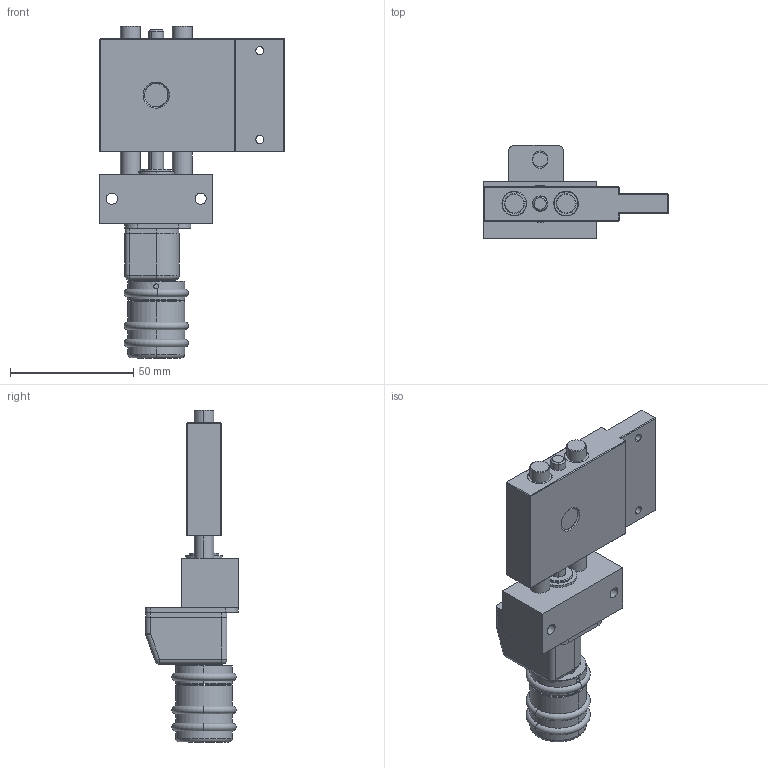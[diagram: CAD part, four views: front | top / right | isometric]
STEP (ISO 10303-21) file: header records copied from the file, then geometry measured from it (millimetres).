
FILE_DESCRIPTION (( 'STEP AP203' ), '1' );
FILE_NAME ('KT1408-KL-PA-Kreuztisch.STEP', '2016-01-15T16:46:00', ( '' ), ( '' ), 'SwSTEP 2.0', 'SolidWorks 2014', '' );
FILE_SCHEMA (( 'CONFIG_CONTROL_DESIGN' ));
Length unit declared in the file: millimetre
Products named in the file (4): PA0812-PTHT-000-Positionsanzeiger-komplett_n_Standard; KT08-000-02-K-Schlitten-komplett; KT1408-KL-PA-Kreuztisch; PT1408-000-01-Festteil-PA(E)
Assembly tree (3 placements, depth 2):
  KT1408-KL-PA-Kreuztisch
    PT1408-000-01-Festteil-PA(E)
    PA0812-PTHT-000-Positionsanzeiger-komplett_n_Standard
    KT08-000-02-K-Schlitten-komplett
Bounding box: 75 x 37.7 x 134.53 mm (x, y, z)
Volume: 88441.3 mm3; surface area: 35689.1 mm2
Topology: 5 solids, 5 shells, 400 faces, 963 edges, 609 vertices
Faces by surface type: plane 155, cylinder 148, cone 69, torus 15, sphere 7, bspline 6
Entity records: 12885 total; most frequent: CARTESIAN_POINT 2844, DIRECTION 2135, ORIENTED_EDGE 1912, EDGE_CURVE 956, AXIS2_PLACEMENT_3D 818, VERTEX_POINT 609, LINE 499, VECTOR 499
